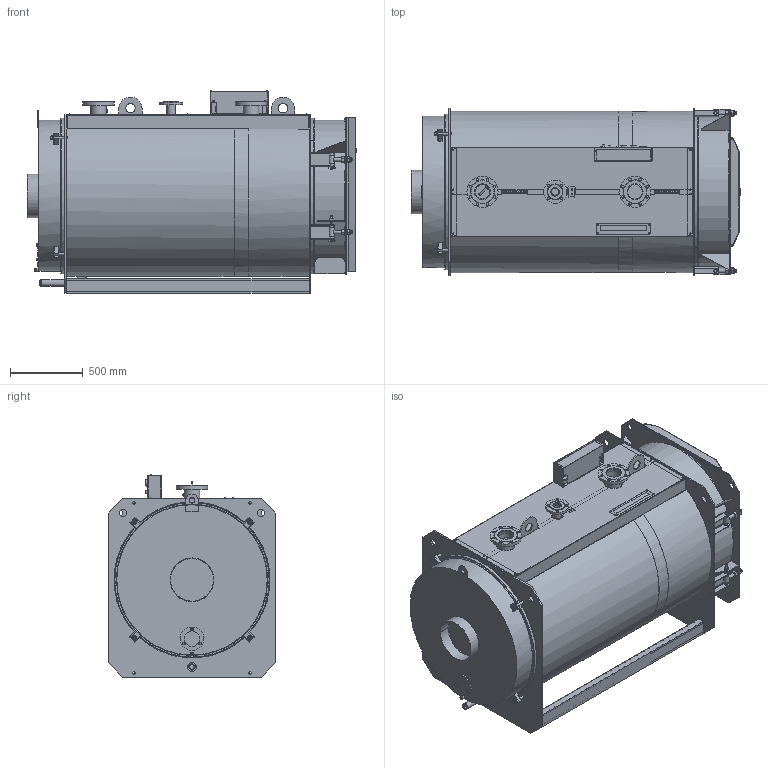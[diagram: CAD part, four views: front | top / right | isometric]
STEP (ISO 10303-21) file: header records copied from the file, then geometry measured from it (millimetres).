
FILE_DESCRIPTION(('STEP AP214'), '1');
FILE_NAME('Òèòàí Ïðîì 600 êÂò', '2026-01-12T14:47:48', (''), (''), 'ASCON STEP Converter 1.6', 'ASCON Math Kernel', '');
FILE_SCHEMA(('AUTOMOTIVE_DESIGN { 1 0 10303 214 3 1 1}'));
Length unit declared in the file: millimetre
Products named in the file (1): КЕВМ.3136.00.00.000-08 СБ
Bounding box: 2267.26 x 1150 x 1393.16 mm (x, y, z)
Volume: 52428366.1 mm3; surface area: 29628206.2 mm2
Topology: 66 solids, 74 shells, 4583 faces, 11606 edges, 7444 vertices
Faces by surface type: plane 2758, cylinder 1399, cone 202, bspline 173, torus 29, sphere 14, extrusion 8
Full cylindrical faces by diameter (mm): 1.9 x1, 2 x18, 2.5 x1, 3 x8, 3.5 x5, 3.6 x4, 4 x8, 4.1 x10, 4.2 x4, 4.5 x8, 4.8 x1, 5 x28, 6 x5, 7 x2, 7.6 x1, 8 x6, 8.5 x2, 9 x2, 9.25 x8, 9.5 x10, 9.728 x1, 10 x5, 10.5 x1, 11 x1, 12 x9, 13 x4, 13.835 x6, 14.376 x4, 14.5 x1, 15 x2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
Entity records: 252795 total; most frequent: CARTESIAN_POINT 108053, ORIENTED_EDGE 22086, DIRECTION 21326, EDGE_CURVE 11043, VERTEX_POINT 7424, AXIS2_PLACEMENT_3D 7365, VECTOR 6596, LINE 6588
